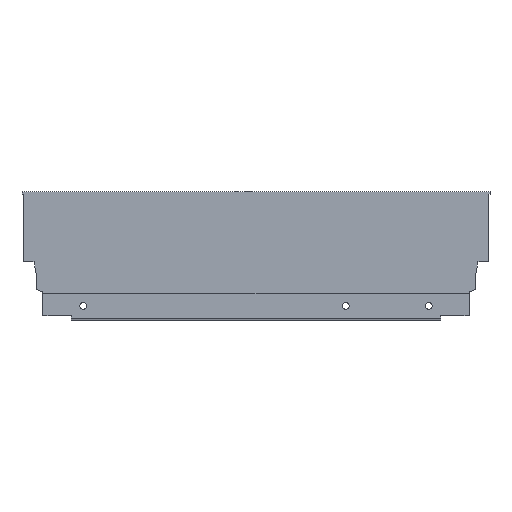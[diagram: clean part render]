
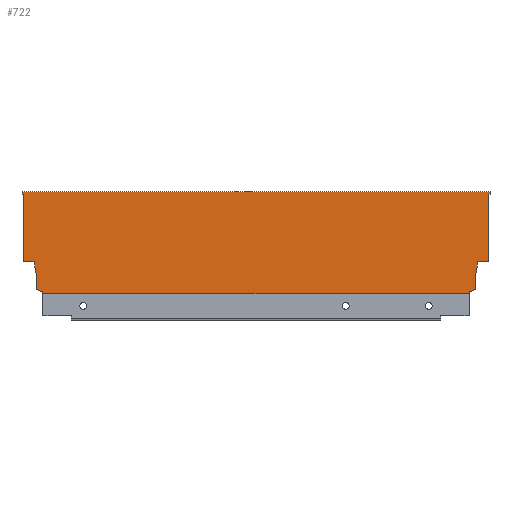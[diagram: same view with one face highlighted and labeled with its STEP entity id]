
A CAD part, top view. The second image highlights one B-rep face of the part: STEP entity #722.
In plain terms, the highlighted planar face has unit normal (0, 0, 1).
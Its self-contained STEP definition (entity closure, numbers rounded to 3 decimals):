
#14 = CARTESIAN_POINT ( 'NONE',  ( -8.9, 10.765, 7.5 ) ) ;
#15 = CARTESIAN_POINT ( 'NONE',  ( 0., 21.2, 7.5 ) ) ;
#18 = CARTESIAN_POINT ( 'NONE',  ( -8.9, 2.64, 7.5 ) ) ;
#22 = CARTESIAN_POINT ( 'NONE',  ( -302.1, 10.765, 7.5 ) ) ;
#23 = CARTESIAN_POINT ( 'NONE',  ( -303.94, 21.2, 7.5 ) ) ;
#26 = CARTESIAN_POINT ( 'NONE',  ( -13.004, 0., 7.5 ) ) ;
#27 = CARTESIAN_POINT ( 'NONE',  ( -13.004, 1.146, 7.5 ) ) ;
#32 = CARTESIAN_POINT ( 'NONE',  ( 0., 66.5, 7.5 ) ) ;
#33 = CARTESIAN_POINT ( 'NONE',  ( -302.1, 2.64, 7.5 ) ) ;
#41 = CARTESIAN_POINT ( 'NONE',  ( -297.996, 0., 7.5 ) ) ;
#51 = CARTESIAN_POINT ( 'NONE',  ( -311., 21.2, 7.5 ) ) ;
#54 = CARTESIAN_POINT ( 'NONE',  ( -312., 68., 7.5 ) ) ;
#67 = CARTESIAN_POINT ( 'NONE',  ( 1., 66.5, 7.5 ) ) ;
#77 = CARTESIAN_POINT ( 'NONE',  ( -7.06, 21.2, 7.5 ) ) ;
#102 = VERTEX_POINT ( 'NONE', #77 ) ;
#112 = VERTEX_POINT ( 'NONE', #67 ) ;
#125 = VERTEX_POINT ( 'NONE', #54 ) ;
#128 = VERTEX_POINT ( 'NONE', #51 ) ;
#138 = VERTEX_POINT ( 'NONE', #41 ) ;
#146 = VERTEX_POINT ( 'NONE', #33 ) ;
#147 = VERTEX_POINT ( 'NONE', #32 ) ;
#152 = VERTEX_POINT ( 'NONE', #27 ) ;
#153 = VERTEX_POINT ( 'NONE', #26 ) ;
#156 = VERTEX_POINT ( 'NONE', #23 ) ;
#157 = VERTEX_POINT ( 'NONE', #22 ) ;
#162 = VERTEX_POINT ( 'NONE', #18 ) ;
#165 = VERTEX_POINT ( 'NONE', #15 ) ;
#166 = VERTEX_POINT ( 'NONE', #14 ) ;
#283 = PLANE ( 'NONE',  #1645 ) ;
#286 = CARTESIAN_POINT ( 'NONE',  ( -311., 0., 7.5 ) ) ;
#292 = DIRECTION ( 'NONE',  ( 0., 0., 1. ) ) ;
#293 = DIRECTION ( 'NONE',  ( 1., 0., 0. ) ) ;
#384 = CARTESIAN_POINT ( 'NONE',  ( 0., 0., 7.5 ) ) ;
#385 = DIRECTION ( 'NONE',  ( 0., -1., 0. ) ) ;
#416 = CARTESIAN_POINT ( 'NONE',  ( -303.94, 21.2, 7.5 ) ) ;
#421 = CARTESIAN_POINT ( 'NONE',  ( -311., 0., 7.5 ) ) ;
#422 = DIRECTION ( 'NONE',  ( 1., 0., 0. ) ) ;
#423 = CARTESIAN_POINT ( 'NONE',  ( -312., 66.5, 7.5 ) ) ;
#424 = DIRECTION ( 'NONE',  ( -0.174, 0.985, 0. ) ) ;
#425 = CARTESIAN_POINT ( 'NONE',  ( -312., 66.5, 7.5 ) ) ;
#426 = DIRECTION ( 'NONE',  ( 1., 0., 0. ) ) ;
#429 = CARTESIAN_POINT ( 'NONE',  ( -316., 21.2, 7.5 ) ) ;
#430 = DIRECTION ( 'NONE',  ( -1., 0., 0. ) ) ;
#431 = CARTESIAN_POINT ( 'NONE',  ( -311., 68., 7.5 ) ) ;
#432 = DIRECTION ( 'NONE',  ( 0., 1., 0. ) ) ;
#433 = CARTESIAN_POINT ( 'NONE',  ( -311., 0., 7.5 ) ) ;
#434 = DIRECTION ( 'NONE',  ( 1., 0., 0. ) ) ;
#435 = CARTESIAN_POINT ( 'NONE',  ( -13.004, 1.146, 7.5 ) ) ;
#436 = DIRECTION ( 'NONE',  ( 0., -1., 0. ) ) ;
#438 = CARTESIAN_POINT ( 'NONE',  ( -302.1, 10.765, 7.5 ) ) ;
#439 = DIRECTION ( 'NONE',  ( 0., 1., 0. ) ) ;
#441 = DIRECTION ( 'NONE',  ( 0., -1., 0. ) ) ;
#442 = CARTESIAN_POINT ( 'NONE',  ( -297.996, 1.146, 7.5 ) ) ;
#443 = DIRECTION ( 'NONE',  ( 0., 1., 0. ) ) ;
#444 = CARTESIAN_POINT ( 'NONE',  ( -302.1, 2.64, 7.5 ) ) ;
#445 = DIRECTION ( 'NONE',  ( -0.94, 0.342, 0. ) ) ;
#447 = CARTESIAN_POINT ( 'NONE',  ( -8.9, 2.64, 7.5 ) ) ;
#450 = CARTESIAN_POINT ( 'NONE',  ( -8.9, 10.765, 7.5 ) ) ;
#452 = DIRECTION ( 'NONE',  ( 0., -1., 0. ) ) ;
#455 = DIRECTION ( 'NONE',  ( -0.94, -0.342, 0. ) ) ;
#465 = CARTESIAN_POINT ( 'NONE',  ( -312., 66.5, 7.5 ) ) ;
#466 = CARTESIAN_POINT ( 'NONE',  ( -297.996, 1.146, 7.5 ) ) ;
#467 = CARTESIAN_POINT ( 'NONE',  ( 1., 68., 7.5 ) ) ;
#468 = CARTESIAN_POINT ( 'NONE',  ( -311., 66.5, 7.5 ) ) ;
#471 = CARTESIAN_POINT ( 'NONE',  ( 0., 21.2, 7.5 ) ) ;
#472 = CARTESIAN_POINT ( 'NONE',  ( -7.06, 21.2, 7.5 ) ) ;
#474 = DIRECTION ( 'NONE',  ( -0.174, -0.985, 0. ) ) ;
#477 = DIRECTION ( 'NONE',  ( -1., 0., 0. ) ) ;
#478 = CARTESIAN_POINT ( 'NONE',  ( 1., 66.5, 7.5 ) ) ;
#481 = DIRECTION ( 'NONE',  ( -1., 0., 0. ) ) ;
#484 = CARTESIAN_POINT ( 'NONE',  ( 1., 68., 7.5 ) ) ;
#485 = DIRECTION ( 'NONE',  ( 0., -1., 0. ) ) ;
#722 = ADVANCED_FACE ( 'NONE', ( #1044 ), #283, .T. ) ;
#942 = LINE ( 'NONE', #447, #1065 ) ;
#943 = VECTOR ( 'NONE', #452, 1000. ) ;
#944 = VECTOR ( 'NONE', #445, 1000. ) ;
#945 = LINE ( 'NONE', #444, #944 ) ;
#946 = VECTOR ( 'NONE', #443, 1000. ) ;
#947 = LINE ( 'NONE', #442, #946 ) ;
#949 = VECTOR ( 'NONE', #441, 1000. ) ;
#950 = VECTOR ( 'NONE', #439, 1000. ) ;
#951 = LINE ( 'NONE', #438, #950 ) ;
#953 = VECTOR ( 'NONE', #436, 1000. ) ;
#954 = LINE ( 'NONE', #471, #1071 ) ;
#955 = VECTOR ( 'NONE', #434, 1000. ) ;
#956 = LINE ( 'NONE', #435, #949 ) ;
#957 = VECTOR ( 'NONE', #432, 1000. ) ;
#958 = VECTOR ( 'NONE', #430, 1000. ) ;
#959 = LINE ( 'NONE', #429, #958 ) ;
#962 = LINE ( 'NONE', #433, #953 ) ;
#963 = VECTOR ( 'NONE', #426, 1000. ) ;
#964 = LINE ( 'NONE', #431, #955 ) ;
#965 = VECTOR ( 'NONE', #424, 1000. ) ;
#967 = LINE ( 'NONE', #416, #965 ) ;
#969 = VECTOR ( 'NONE', #422, 1000. ) ;
#970 = LINE ( 'NONE', #423, #963 ) ;
#971 = LINE ( 'NONE', #421, #969 ) ;
#974 = LINE ( 'NONE', #425, #957 ) ;
#997 = VECTOR ( 'NONE', #385, 1000. ) ;
#998 = LINE ( 'NONE', #384, #997 ) ;
#1044 = FACE_OUTER_BOUND ( 'NONE', #1111, .T. ) ;
#1063 = LINE ( 'NONE', #450, #943 ) ;
#1064 = VECTOR ( 'NONE', #474, 1000. ) ;
#1065 = VECTOR ( 'NONE', #455, 1000. ) ;
#1068 = LINE ( 'NONE', #472, #1064 ) ;
#1071 = VECTOR ( 'NONE', #477, 1000. ) ;
#1072 = LINE ( 'NONE', #478, #1073 ) ;
#1073 = VECTOR ( 'NONE', #481, 1000. ) ;
#1111 = EDGE_LOOP ( 'NONE', ( #1420, #1419, #1418, #1423, #1422, #1421, #1426, #1425, #1424, #1432, #1431, #1430, #1435, #1434, #1433, #1455, #1454, #1442 ) ) ;
#1194 = VECTOR ( 'NONE', #485, 1000. ) ;
#1195 = LINE ( 'NONE', #484, #1194 ) ;
#1233 = EDGE_CURVE ( 'NONE', #147, #165, #998, .T. ) ;
#1250 = EDGE_CURVE ( 'NONE', #138, #153, #971, .T. ) ;
#1251 = EDGE_CURVE ( 'NONE', #157, #156, #967, .T. ) ;
#1252 = EDGE_CURVE ( 'NONE', #1281, #1284, #970, .T. ) ;
#1254 = EDGE_CURVE ( 'NONE', #156, #128, #959, .T. ) ;
#1255 = EDGE_CURVE ( 'NONE', #1281, #125, #974, .T. ) ;
#1256 = EDGE_CURVE ( 'NONE', #125, #1283, #964, .T. ) ;
#1257 = EDGE_CURVE ( 'NONE', #1284, #128, #962, .T. ) ;
#1258 = EDGE_CURVE ( 'NONE', #146, #157, #951, .T. ) ;
#1259 = EDGE_CURVE ( 'NONE', #152, #153, #956, .T. ) ;
#1260 = EDGE_CURVE ( 'NONE', #138, #1282, #947, .T. ) ;
#1261 = EDGE_CURVE ( 'NONE', #1282, #146, #945, .T. ) ;
#1266 = EDGE_CURVE ( 'NONE', #166, #162, #1063, .T. ) ;
#1267 = EDGE_CURVE ( 'NONE', #162, #152, #942, .T. ) ;
#1281 = VERTEX_POINT ( 'NONE', #465 ) ;
#1282 = VERTEX_POINT ( 'NONE', #466 ) ;
#1283 = VERTEX_POINT ( 'NONE', #467 ) ;
#1284 = VERTEX_POINT ( 'NONE', #468 ) ;
#1418 = ORIENTED_EDGE ( 'NONE', *, *, #1252, .T. ) ;
#1419 = ORIENTED_EDGE ( 'NONE', *, *, #1255, .F. ) ;
#1420 = ORIENTED_EDGE ( 'NONE', *, *, #1256, .F. ) ;
#1421 = ORIENTED_EDGE ( 'NONE', *, *, #1251, .F. ) ;
#1422 = ORIENTED_EDGE ( 'NONE', *, *, #1254, .F. ) ;
#1423 = ORIENTED_EDGE ( 'NONE', *, *, #1257, .T. ) ;
#1424 = ORIENTED_EDGE ( 'NONE', *, *, #1260, .F. ) ;
#1425 = ORIENTED_EDGE ( 'NONE', *, *, #1261, .F. ) ;
#1426 = ORIENTED_EDGE ( 'NONE', *, *, #1258, .F. ) ;
#1430 = ORIENTED_EDGE ( 'NONE', *, *, #1267, .F. ) ;
#1431 = ORIENTED_EDGE ( 'NONE', *, *, #1259, .F. ) ;
#1432 = ORIENTED_EDGE ( 'NONE', *, *, #1250, .T. ) ;
#1433 = ORIENTED_EDGE ( 'NONE', *, *, #1512, .F. ) ;
#1434 = ORIENTED_EDGE ( 'NONE', *, *, #1510, .F. ) ;
#1435 = ORIENTED_EDGE ( 'NONE', *, *, #1266, .F. ) ;
#1442 = ORIENTED_EDGE ( 'NONE', *, *, #1516, .F. ) ;
#1454 = ORIENTED_EDGE ( 'NONE', *, *, #1514, .F. ) ;
#1455 = ORIENTED_EDGE ( 'NONE', *, *, #1233, .F. ) ;
#1510 = EDGE_CURVE ( 'NONE', #102, #166, #1068, .T. ) ;
#1512 = EDGE_CURVE ( 'NONE', #165, #102, #954, .T. ) ;
#1514 = EDGE_CURVE ( 'NONE', #112, #147, #1072, .T. ) ;
#1516 = EDGE_CURVE ( 'NONE', #1283, #112, #1195, .T. ) ;
#1645 = AXIS2_PLACEMENT_3D ( 'NONE', #286, #292, #293 ) ;
